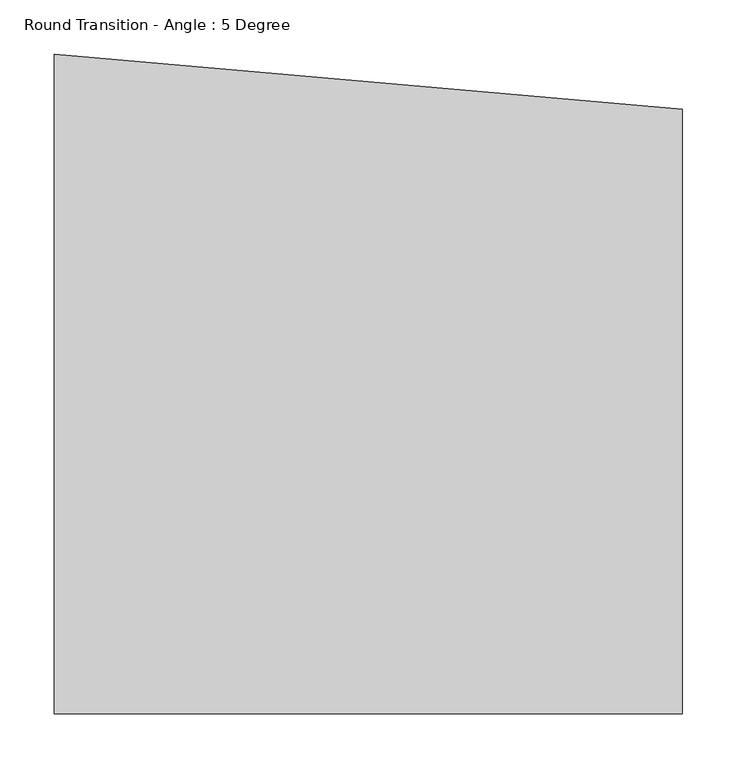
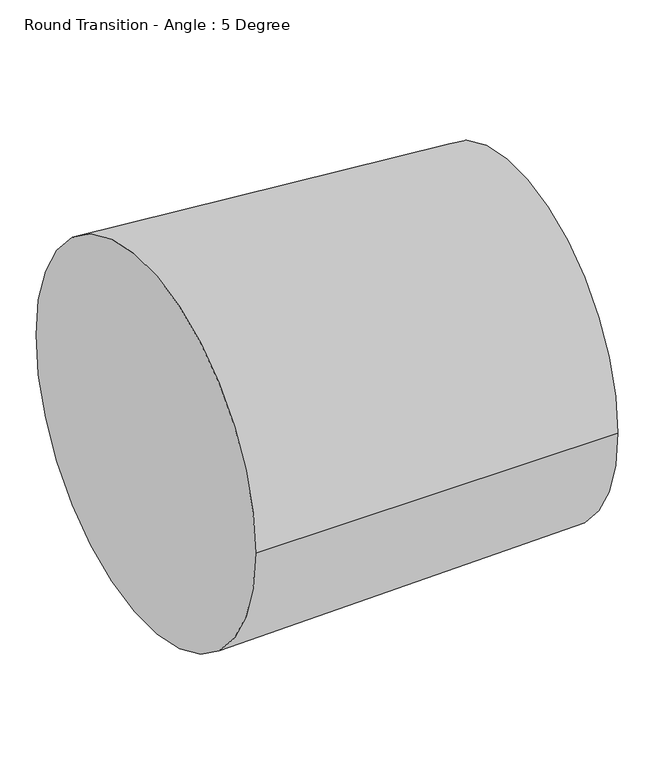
"""IFC4 building model written with IfcOpenShell, lengths in millimetres: duct fitting geometry, Round Transition - Angle : 5 Degree."""

from ifc_helpers import new_model, si_unit, frame, origin, place, context, project, spatial, circle_curve, source, transform, mapped, element, save
from ifc_brep_helpers import plane_surface, spline_surface, advanced_brep


def round_transition_angle_5_degree_dca123a1(model_context):
    return source(origin(), model_context, "Body", "AdvancedBrep", [
        advanced_brep(
        [(580.646657, -304.8, 0.0), (580.646657, 254.0, 0.0), (0.0, -304.8, 0.0), (0.0, 304.8, 0.0)],
        [
            (0, 1, circle_curve(frame((580.646657, -25.4, 0.0), z_axis=(1.0, 0.0, 0.0), x_axis=(0.0, 1.0, 0.0)), 279.4)),
            (1, 0, circle_curve(frame((580.646657, -25.4, 0.0), z_axis=(1.0, 0.0, 0.0), x_axis=(0.0, 1.0, 0.0)), 279.4)),
            (2, 3, circle_curve(frame((0.0, 0.0, 0.0), z_axis=(-1.0, 0.0, 0.0), x_axis=(0.0, 1.0, 0.0)), 304.8)),
            (3, 2, circle_curve(frame((0.0, 0.0, 0.0), z_axis=(-1.0, 0.0, 0.0), x_axis=(0.0, 1.0, 0.0)), 304.8)),
            (3, 1),
            (0, 2),
        ],
        [
            plane_surface(frame((580.646657, -25.4, 0.0), z_axis=(1.0, 0.0, 0.0), x_axis=(0.0, 0.0, -1.0))),
            plane_surface(frame((0.0, 0.0, 0.0), z_axis=(-1.0, 0.0, 0.0), x_axis=(0.0, 0.0, -1.0))),
            spline_surface(2, 1, [[(0.0, -304.8, 0.0), (580.646657, -304.8, 0.0)], [(0.0, -304.8, -304.8), (580.646657, -304.8, -279.40000000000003)], [(0.0, 0.0, -304.8), (580.646657, -25.4, -279.40000000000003)], [(0.0, 304.8, -304.8), (580.646657, 254.00000000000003, -279.40000000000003)], [(0.0, 304.8, 0.0), (580.646657, 254.0, 0.0)]], [3, 2, 3], [2, 2], [0.0, 1.0, 2.0], [0.0, 1.0], weights=[[1.0, 1.0], [0.7071067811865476, 0.7071067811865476], [1.0, 1.0], [0.7071067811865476, 0.7071067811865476], [1.0, 1.0]]),
            spline_surface(2, 1, [[(0.0, 304.8, 0.0), (580.646657, 254.0, 0.0)], [(0.0, 304.8, 304.8), (580.646657, 253.99999999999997, 279.4)], [(0.0, 0.0, 304.8), (580.646657, -25.4, 279.4)], [(0.0, -304.8, 304.8), (580.646657, -304.79999999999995, 279.4)], [(0.0, -304.8, 0.0), (580.646657, -304.8, 0.0)]], [3, 2, 3], [2, 2], [0.0, 1.0, 2.0], [0.0, 1.0], weights=[[1.0, 1.0], [0.7071067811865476, 0.7071067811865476], [1.0, 1.0], [0.7071067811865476, 0.7071067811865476], [1.0, 1.0]]),
        ],
        [
            (0, [[1, 2]]),
            (1, [[3, 4]]),
            (2, [[-4, 5, -1, 6]]),
            (3, [[-3, -6, -2, -5]]),
        ],
    ),
    ])


if __name__ == "__main__":
    model = new_model("IFC4")
    model_context = context("Model", 3, world=origin())
    ifc_project = project(units=[si_unit("LENGTHUNIT", "METRE", prefix="MILLI")], contexts=[model_context])
    site = spatial("IfcSite", under=ifc_project)
    building = spatial("IfcBuilding", under=site)
    placement = place(None, origin())
    round_transition_angle_5_degree_shape = round_transition_angle_5_degree_dca123a1(model_context)
    element("IfcDuctFitting", 1, ObjectType="Round Transition - Angle : 5 Degree", at=placement, inside=building, context=model_context, shape_type="MappedRepresentation", body=[
        mapped(round_transition_angle_5_degree_shape, transform((0.0, 0.0, 0.0), x_axis=(1.0, 0.0, 0.0), y_axis=(0.0, 1.0, 0.0), z_axis=(0.0, 0.0, 1.0))),
    ])
    save(model, "model.ifc")
